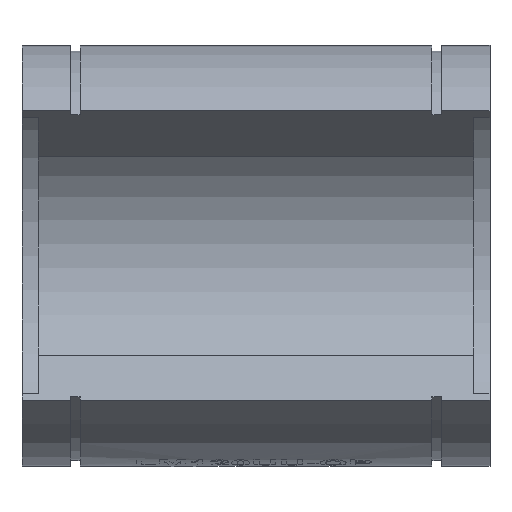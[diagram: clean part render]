
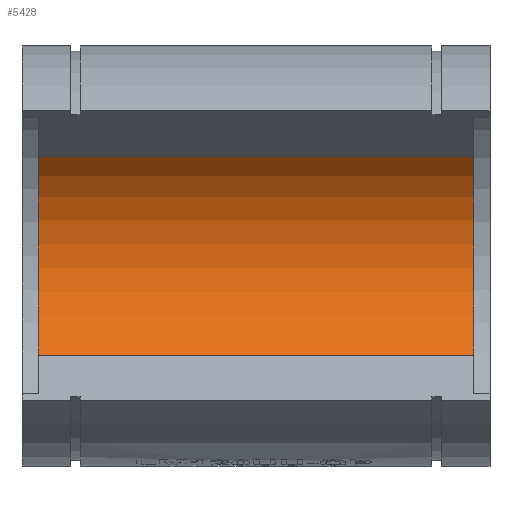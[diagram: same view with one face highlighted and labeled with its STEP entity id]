
A CAD part, top view. The second image highlights one B-rep face of the part: STEP entity #5428.
In plain terms, the highlighted cylindrical face has radius 60 mm (diameter 120 mm), a partial arc.
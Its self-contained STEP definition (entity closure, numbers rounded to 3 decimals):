
#360=CIRCLE('',#5841,60.);
#361=CIRCLE('',#5842,60.);
#537=LINE('',#8777,#1001);
#538=LINE('',#8781,#1002);
#1001=VECTOR('',#6394,1000.);
#1002=VECTOR('',#6397,1000.);
#1621=ORIENTED_EDGE('',*,*,#3267,.F.);
#1622=ORIENTED_EDGE('',*,*,#3268,.T.);
#1623=ORIENTED_EDGE('',*,*,#3269,.F.);
#1624=ORIENTED_EDGE('',*,*,#3270,.F.);
#3267=EDGE_CURVE('',#4090,#4091,#360,.F.);
#3268=EDGE_CURVE('',#4090,#4092,#537,.T.);
#3269=EDGE_CURVE('',#4093,#4092,#361,.F.);
#3270=EDGE_CURVE('',#4091,#4093,#538,.T.);
#4090=VERTEX_POINT('',#8775);
#4091=VERTEX_POINT('',#8776);
#4092=VERTEX_POINT('',#8778);
#4093=VERTEX_POINT('',#8780);
#4639=EDGE_LOOP('',(#1621,#1622,#1623,#1624));
#5024=FACE_BOUND('',#4639,.T.);
#5369=CYLINDRICAL_SURFACE('',#5840,60.);
#5428=ADVANCED_FACE('',(#5024),#5369,.F.);
#5840=AXIS2_PLACEMENT_3D('',#8773,#6390,#6391);
#5841=AXIS2_PLACEMENT_3D('',#8774,#6392,#6393);
#5842=AXIS2_PLACEMENT_3D('',#8779,#6395,#6396);
#6390=DIRECTION('',(1.,0.,0.));
#6391=DIRECTION('',(0.,0.,-1.));
#6392=DIRECTION('',(-1.,0.,0.));
#6393=DIRECTION('',(0.,0.,1.));
#6394=DIRECTION('',(1.,0.,0.));
#6395=DIRECTION('',(1.,0.,0.));
#6396=DIRECTION('',(0.,0.,-1.));
#6397=DIRECTION('',(1.,0.,0.));
#8773=CARTESIAN_POINT('',(-100.,0.,0.));
#8774=CARTESIAN_POINT('',(-93.,0.,0.));
#8775=CARTESIAN_POINT('',(-93.,-42.5,42.353));
#8776=CARTESIAN_POINT('',(-93.,42.5,42.353));
#8777=CARTESIAN_POINT('',(-100.001,-42.5,42.353));
#8778=CARTESIAN_POINT('',(93.,-42.5,42.353));
#8779=CARTESIAN_POINT('',(93.,0.,0.));
#8780=CARTESIAN_POINT('',(93.,42.5,42.353));
#8781=CARTESIAN_POINT('',(-100.001,42.5,42.353));
